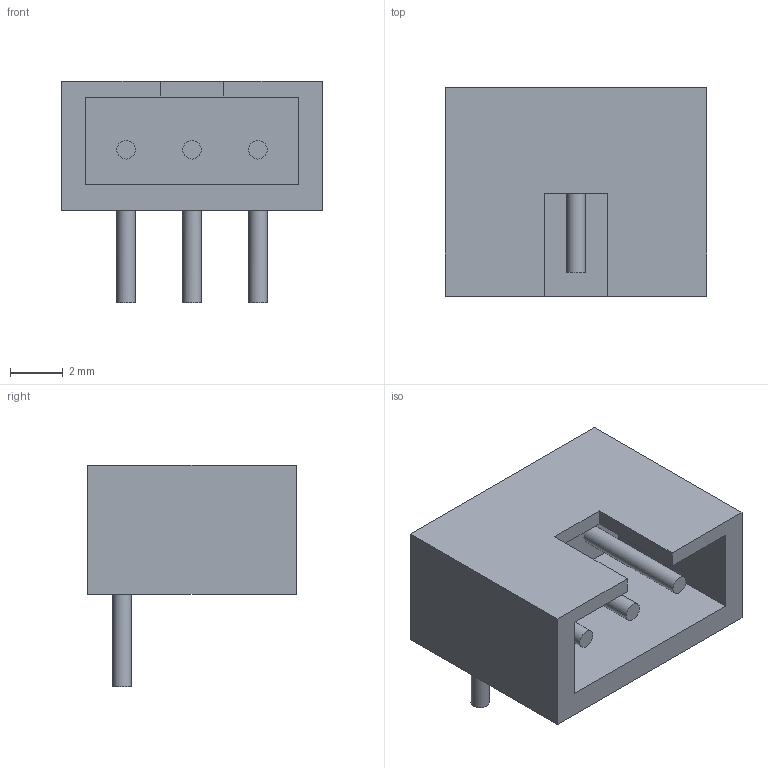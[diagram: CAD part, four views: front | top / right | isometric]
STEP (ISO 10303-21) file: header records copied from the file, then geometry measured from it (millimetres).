
FILE_DESCRIPTION(('Open CASCADE Model'),'2;1');
FILE_NAME('Open CASCADE Shape Model','2026-10-30T17:20:05',('Author'),( 'Open CASCADE'),'Open CASCADE STEP processor 7.9','Open CASCADE 7.9' ,'Unknown');
FILE_SCHEMA(('AUTOMOTIVE_DESIGN { 1 0 10303 214 1 1 1 1 }'));
Length unit declared in the file: millimetre
Products named in the file (5): Molex_22057035_visual; shroud; contact1; contact2; contact3
Assembly tree (4 placements, depth 2):
  Molex_22057035_visual
    shroud
    contact1
    contact2
    contact3
Bounding box: 9.9 x 7.9 x 8.4 mm (x, y, z)
Volume: 238.4 mm3; surface area: 524.6 mm2
Topology: 4 solids, 4 shells, 32 faces, 63 edges, 39 vertices
Faces by surface type: plane 26, cylinder 6
Full cylindrical faces by diameter (mm): 0.7 x6
Entity records: 1770 total; most frequent: CARTESIAN_POINT 381, DIRECTION 237, ORIENTED_EDGE 126, PCURVE 126, DEFINITIONAL_REPRESENTATION 126, LINE 115, VECTOR 115, EDGE_CURVE 63
